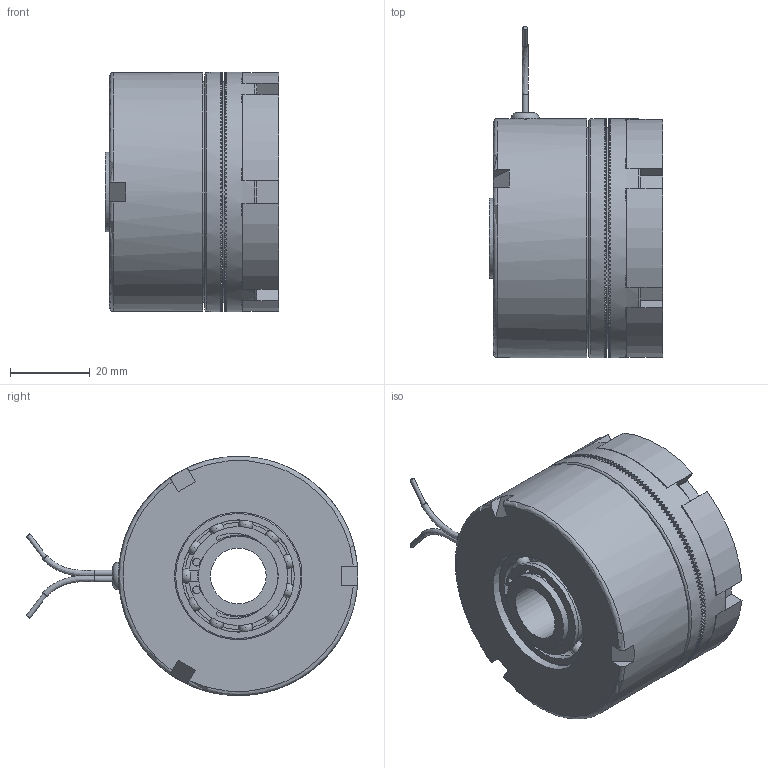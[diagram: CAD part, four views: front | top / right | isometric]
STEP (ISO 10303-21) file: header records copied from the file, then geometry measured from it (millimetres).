
FILE_DESCRIPTION((''),'2;1');
FILE_NAME('\\Srv-tecnico\dati\UFFICIO TECNICO\ARCHIVIO INVENTOR\DISEGNI\UFFICIO TECNICO\07_Innesti_Elettromagnetici_a_Dentini\07_05 ESB_Z\07_05_060_01 ESB060_Z\07_05_060_01 ESB060_Z@STEP.stp','2013-10-01T14:04:46',('stefano'),(''),'Autodesk Inventor 2010','Autodesk Inventor 2010','');
FILE_SCHEMA(('CONFIG_CONTROL_DESIGN'));
Length unit declared in the file: millimetre
Products named in the file (1): 07_05_060_01 ESB060_Z_Sostituto_1
Bounding box: 43.5 x 83.22 x 60 mm (x, y, z)
Volume: 107120.8 mm3; surface area: 41636.3 mm2
Topology: 11 solids, 11 shells, 1849 faces, 5479 edges, 3607 vertices
Faces by surface type: plane 1625, cylinder 98, bspline 61, torus 31, cone 23, sphere 11
Full cylindrical faces by diameter (mm): 1.154 x1, 1.5 x2, 2 x2, 2.2 x3, 2.5 x2, 4 x3, 6 x3, 14 x1, 19 x1, 20 x3, 23 x3, 23.84 x2, 24 x1, 28.16 x2, 31.5 x1, 32 x3, 40 x1, 42 x1, 54 x1, 55.5 x2, 56 x3, 60 x3
Entity records: 65100 total; most frequent: CARTESIAN_POINT 13611, DIRECTION 12042, ORIENTED_EDGE 10564, EDGE_CURVE 5282, AXIS2_PLACEMENT_3D 5134, VERTEX_POINT 3529, ELLIPSE 2163, EDGE_LOOP 2060
